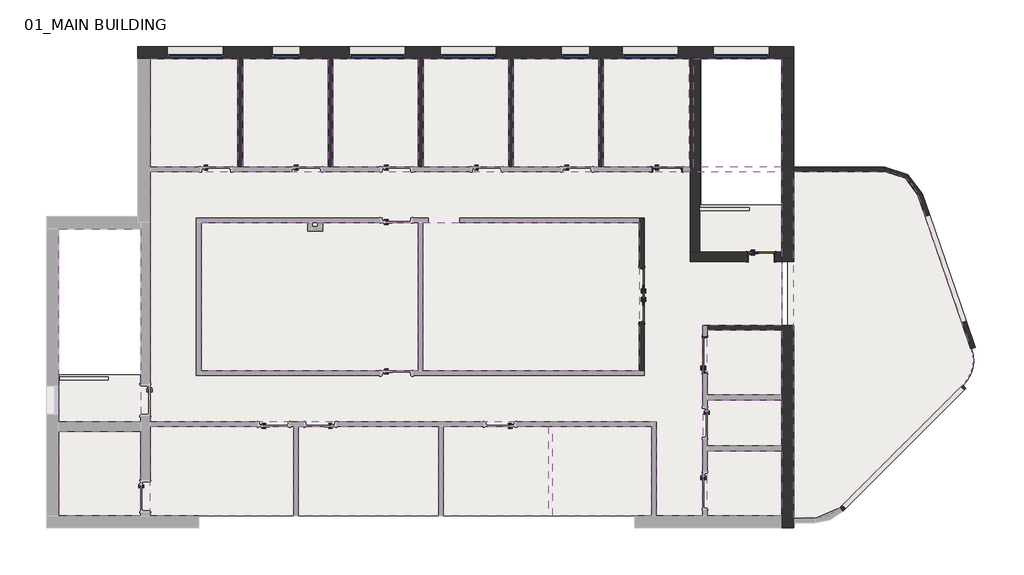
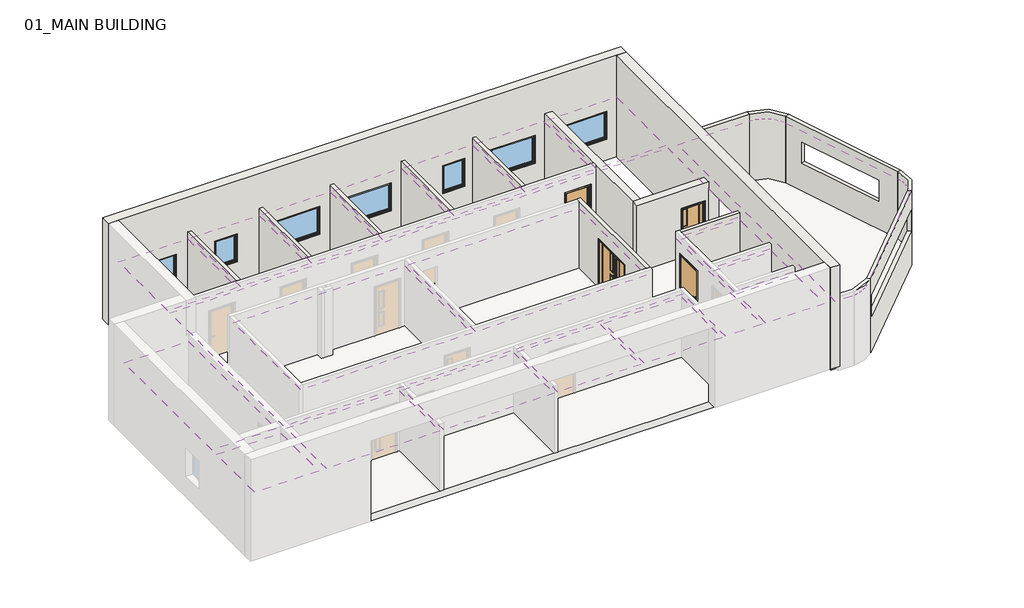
# One storey, part 2 of 2: 20 coverings, 17 walls, 7 windows, 4 doors, 2 slabs.
"""IFC4 building model written with IfcOpenShell, lengths in millimetres."""

from ifc_helpers import new_model, si_unit, point, frame, frame_2d, origin, place, context, project, spatial, polyline, circle_curve, trimmed, segment, composite_curve, outline, extrude, faceted_brep, transform, mapped, element, save
from components import doors_intdbl_3_1810x2110mm_64ebe9ef, doors_intdbl_3_1810x2110mm_1437e5d7, doors_intsgl_1_1010x2110mm_12a6edaf, doors_intsgl_1_1200x2110mm_e831e5cc, doors_intsgl_3_910x2110mm_ed6625c4, windows_concept_plain_sgl_1810x1210mm_7f7241d7, windows_concept_plain_sgl_910x1210mm_ef0b7ad2

model = new_model("IFC4")

# Units and contexts
model_context = context("Model", 3, world=origin())
ifc_project = project(units=[si_unit("LENGTHUNIT", "METRE", prefix="MILLI")], contexts=[model_context])

# Site, building, storey
site = spatial("IfcSite", under=ifc_project)
building = spatial("IfcBuilding", under=site)
storey = spatial("IfcBuildingStorey", under=building, Name="01_MAIN BUILDING", Elevation=4500.0)

# Coverings
placement = place(None, origin())
element("IfcCovering", 1, ObjectType="Ceiling_CompoundGeneric", at=placement, inside=storey, context=model_context, shape_type="SweptSolid", body=[
    extrude(outline(polyline([(425322.3206883, -385049.0026386), (425322.3206883, -381550.0026386), (428163.8921169, -381550.0026386), (428163.8921169, -385049.0026386), (425322.3206883, -385049.0026386)])), frame((0.0, 0.0, 7100.0), z_axis=(0.0, 0.0, 1.0), x_axis=(1.0, 0.0, 0.0)), (0.0, 0.0, 1.0), 52.0),
])
element("IfcCovering", 2, ObjectType="Ceiling_CompoundGeneric", at=placement, inside=storey, context=model_context, shape_type="SweptSolid", body=[
    extrude(outline(polyline([(428313.8921169, -381550.0026386), (431080.4635455, -381550.0026386), (431080.4635455, -385049.0026386), (428313.8921169, -385049.0026386), (428313.8921169, -381550.0026386)])), frame((0.0, 0.0, 7100.0), z_axis=(0.0, 0.0, 1.0), x_axis=(1.0, 0.0, 0.0)), (0.0, 0.0, 1.0), 52.0),
])
element("IfcCovering", 3, ObjectType="Ceiling_CompoundGeneric", at=placement, inside=storey, context=model_context, shape_type="SweptSolid", body=[
    extrude(outline(polyline([(431230.4635455, -381550.0026386), (433997.034974, -381550.0026386), (433997.034974, -385049.0026386), (431230.4635455, -385049.0026386), (431230.4635455, -381550.0026386)])), frame((0.0, 0.0, 7100.0), z_axis=(0.0, 0.0, 1.0), x_axis=(1.0, 0.0, 0.0)), (0.0, 0.0, 1.0), 52.0),
])
element("IfcCovering", 4, ObjectType="Ceiling_CompoundGeneric", at=placement, inside=storey, context=model_context, shape_type="SweptSolid", body=[
    extrude(outline(polyline([(434147.034974, -381550.0026386), (436913.6064026, -381550.0026386), (436913.6064026, -385049.0026386), (434147.034974, -385049.0026386), (434147.034974, -381550.0026386)])), frame((0.0, 0.0, 7100.0), z_axis=(0.0, 0.0, 1.0), x_axis=(1.0, 0.0, 0.0)), (0.0, 0.0, 1.0), 52.0),
])
element("IfcCovering", 5, ObjectType="Ceiling_CompoundGeneric", at=placement, inside=storey, context=model_context, shape_type="SweptSolid", body=[
    extrude(outline(polyline([(437063.6064026, -381550.0026386), (439830.1778312, -381550.0026386), (439830.1778312, -385049.0026386), (437063.6064026, -385049.0026386), (437063.6064026, -381550.0026386)])), frame((0.0, 0.0, 7100.0), z_axis=(0.0, 0.0, 1.0), x_axis=(1.0, 0.0, 0.0)), (0.0, 0.0, 1.0), 52.0),
])
element("IfcCovering", 6, ObjectType="Ceiling_CompoundGeneric", at=placement, inside=storey, context=model_context, shape_type="SweptSolid", body=[
    extrude(outline(polyline([(439980.1778312, -381550.0026386), (442746.7492598, -381550.0026386), (442746.7492598, -385049.0026386), (439980.1778312, -385049.0026386), (439980.1778312, -381550.0026386)])), frame((0.0, 0.0, 7100.0), z_axis=(0.0, 0.0, 1.0), x_axis=(1.0, 0.0, 0.0)), (0.0, 0.0, 1.0), 52.0),
])
element("IfcCovering", 7, ObjectType="Ceiling_CompoundGeneric", at=placement, inside=storey, context=model_context, shape_type="SweptSolid", body=[
    extrude(outline(polyline([(442896.7492598, -385049.0026386), (442896.7492598, -381550.0026386), (445738.3206883, -381550.0026386), (445738.3206883, -385049.0026386), (442896.7492598, -385049.0026386)])), frame((0.0, 0.0, 7100.0), z_axis=(0.0, 0.0, 1.0), x_axis=(1.0, 0.0, 0.0)), (0.0, 0.0, 1.0), 52.0),
])
element("IfcCovering", 8, ObjectType="Ceiling_CompoundGeneric", at=placement, inside=storey, context=model_context, shape_type="SweptSolid", body=[
    extrude(outline(polyline([(434142.3206883, -391649.0026386), (434142.3206883, -386849.0026386), (441142.3206883, -386849.0026386), (441142.3206883, -391649.0026386), (434142.3206883, -391649.0026386)])), frame((0.0, 0.0, 7100.0), z_axis=(0.0, 0.0, 1.0), x_axis=(1.0, 0.0, 0.0)), (0.0, 0.0, 1.0), 52.0),
])
element("IfcCovering", 9, ObjectType="Ceiling_CompoundGeneric", at=placement, inside=storey, context=model_context, shape_type="SweptSolid", body=[
    extrude(outline(polyline([(426972.3206883, -386849.0026386), (433992.3206883, -386849.0026386), (433992.3206883, -391649.0026386), (426972.3206883, -391649.0026386), (426972.3206883, -386849.0026386)])), frame((0.0, 0.0, 7100.0), z_axis=(0.0, 0.0, 1.0), x_axis=(1.0, 0.0, 0.0)), (0.0, 0.0, 1.0), 52.0),
])
element("IfcCovering", 10, ObjectType="Ceiling_CompoundGeneric", at=placement, inside=storey, context=model_context, shape_type="SweptSolid", body=[
    extrude(outline(polyline([(422376.3206883, -393299.0026386), (422376.3206883, -387049.0026386), (425012.3206883, -387049.0026386), (425012.3206883, -393299.0026386), (422376.3206883, -393299.0026386)])), frame((0.0, 0.0, 7100.0), z_axis=(0.0, 0.0, 1.0), x_axis=(1.0, 0.0, 0.0)), (0.0, 0.0, 1.0), 52.0),
])
element("IfcCovering", 11, ObjectType="Ceiling_CompoundGeneric", at=placement, inside=storey, context=model_context, shape_type="SweptSolid", body=[
    extrude(outline(polyline([(425012.3206883, -396328.0026386), (422376.3206883, -396328.0026386), (422376.3206883, -394395.0026386), (422376.3206883, -393609.0026386), (425012.3206883, -393609.0026386), (425012.3206883, -396328.0026386)])), frame((0.0, 0.0, 7100.0), z_axis=(0.0, 0.0, 1.0), x_axis=(1.0, 0.0, 0.0)), (0.0, 0.0, 1.0), 52.0),
])
element("IfcCovering", 12, ObjectType="Ceiling_CompoundGeneric", at=placement, inside=storey, context=model_context, shape_type="SweptSolid", body=[
    extrude(outline(polyline([(429969.5429107, -396328.0026386), (425322.3206883, -396328.0026386), (425322.3206883, -393449.0026386), (429969.5429107, -393449.0026386), (429969.5429107, -396328.0026386)])), frame((0.0, 0.0, 7100.0), z_axis=(0.0, 0.0, 1.0), x_axis=(1.0, 0.0, 0.0)), (0.0, 0.0, 1.0), 52.0),
])
element("IfcCovering", 13, ObjectType="Ceiling_CompoundGeneric", at=placement, inside=storey, context=model_context, shape_type="SweptSolid", body=[
    extrude(outline(polyline([(434652.8762438, -396328.0026386), (430119.5429107, -396328.0026386), (430119.5429107, -393449.0026386), (434652.8762438, -393449.0026386), (434652.8762438, -396328.0026386)])), frame((0.0, 0.0, 7100.0), z_axis=(0.0, 0.0, 1.0), x_axis=(1.0, 0.0, 0.0)), (0.0, 0.0, 1.0), 52.0),
])
element("IfcCovering", 14, ObjectType="Ceiling_CompoundGeneric", at=placement, inside=storey, context=model_context, shape_type="SweptSolid", body=[
    extrude(outline(polyline([(438198.3206883, -396328.0026386), (434802.8762438, -396328.0026386), (434802.8762438, -393449.0026386), (438198.3206883, -393449.0026386), (438198.3206883, -396328.0026386)])), frame((0.0, 0.0, 7100.0), z_axis=(0.0, 0.0, 1.0), x_axis=(1.0, 0.0, 0.0)), (0.0, 0.0, 1.0), 52.0),
])
element("IfcCovering", 15, ObjectType="Ceiling_CompoundGeneric", at=placement, inside=storey, context=model_context, shape_type="SweptSolid", body=[
    extrude(outline(polyline([(441538.3206883, -396328.0026386), (438348.3206883, -396328.0026386), (438348.3206883, -393449.0026386), (441538.3206883, -393449.0026386), (441538.3206883, -396328.0026386)])), frame((0.0, 0.0, 7100.0), z_axis=(0.0, 0.0, 1.0), x_axis=(1.0, 0.0, 0.0)), (0.0, 0.0, 1.0), 52.0),
])
element("IfcCovering", 16, ObjectType="Ceiling_CompoundGeneric", at=placement, inside=storey, context=model_context, shape_type="SweptSolid", body=[
    extrude(outline(polyline([(445738.3206883, -394228.0026386), (445738.3206883, -396328.0026386), (443338.3206883, -396328.0026386), (443338.3206883, -394228.0026386), (445738.3206883, -394228.0026386)])), frame((0.0, 0.0, 7100.0), z_axis=(0.0, 0.0, 1.0), x_axis=(1.0, 0.0, 0.0)), (0.0, 0.0, 1.0), 52.0),
])
element("IfcCovering", 17, ObjectType="Ceiling_CompoundGeneric", at=placement, inside=storey, context=model_context, shape_type="SweptSolid", body=[
    extrude(outline(polyline([(445738.3206883, -392578.0026386), (445738.3206883, -394078.0026386), (443338.3206883, -394078.0026386), (443338.3206883, -392578.0026386), (445738.3206883, -392578.0026386)])), frame((0.0, 0.0, 7100.0), z_axis=(0.0, 0.0, 1.0), x_axis=(1.0, 0.0, 0.0)), (0.0, 0.0, 1.0), 52.0),
])
element("IfcCovering", 18, ObjectType="Ceiling_CompoundGeneric", at=placement, inside=storey, context=model_context, shape_type="SweptSolid", body=[
    extrude(outline(polyline([(445738.3206883, -390328.0026386), (445738.3206883, -392428.0026386), (443338.3206883, -392428.0026386), (443338.3206883, -390328.0026386), (445738.3206883, -390328.0026386)])), frame((0.0, 0.0, 7100.0), z_axis=(0.0, 0.0, 1.0), x_axis=(1.0, 0.0, 0.0)), (0.0, 0.0, 1.0), 52.0),
])
element("IfcCovering", 19, ObjectType="Ceiling_CompoundGeneric", at=placement, inside=storey, context=model_context, shape_type="SweptSolid", body=[
    extrude(outline(polyline([(445738.3206883, -385199.0026386), (445738.3206883, -390178.0026386), (443188.3206883, -390178.0026386), (443188.3206883, -396328.0026386), (441688.3206883, -396328.0026386), (441688.3206883, -393299.0026386), (425322.3206883, -393299.0026386), (425322.3206883, -386848.0026386), (425322.3206883, -385199.0026386), (445738.3206883, -385199.0026386)]), holes=[polyline([(441292.3206883, -391799.0026386), (441292.3206883, -386699.0026386), (426822.3206883, -386699.0026386), (426822.3206883, -391799.0026386), (441292.3206883, -391799.0026386)])]), frame((0.0, 0.0, 7100.0), z_axis=(0.0, 0.0, 1.0), x_axis=(1.0, 0.0, 0.0)), (0.0, 0.0, 1.0), 52.0),
])
element("IfcCovering", 20, ObjectType="Ceiling_CompoundGeneric", at=placement, inside=storey, context=model_context, shape_type="SweptSolid", body=[
    extrude(outline(composite_curve([segment(polyline([(446140.3206883, -396408.0026386), (446140.3206883, -385199.0026386), (449083.3690069, -385199.0026386)]), True, "CONTINUOUS"), segment(trimmed(circle_curve(frame_2d((449083.3690069, -386324.0026386)), 1125.0), [point((449083.3690069, -385199.0026386))], [point((450147.0774044, -385957.7384648))], False, "CARTESIAN"), True, "CONTINUOUS"), segment(polyline([(450147.0774044, -385957.7384648), (451862.4112075, -390939.4295547)]), True, "CONTINUOUS"), segment(trimmed(circle_curve(frame_2d((450798.70281, -391305.6937285)), 1125.0), [point((451862.4112075, -390939.4295547))], [point((451594.1979388, -392101.1888573))], False, "CARTESIAN"), True, "CONTINUOUS"), segment(polyline([(451594.1979388, -392101.1888573), (447616.8890287, -396078.4977674)]), True, "CONTINUOUS"), segment(trimmed(circle_curve(frame_2d((446821.3938999, -395283.0026386)), 1125.0), [point((447616.8890287, -396078.4977674))], [point((446821.3938999, -396408.0026386))], False, "CARTESIAN"), True, "CONTINUOUS"), segment(polyline([(446821.3938999, -396408.0026386), (446140.3206883, -396408.0026386)]), True, "CONTINUOUS")], self_intersect=False)), frame((0.0, 0.0, 7100.0), z_axis=(0.0, 0.0, 1.0), x_axis=(1.0, 0.0, 0.0)), (0.0, 0.0, 1.0), 52.0),
])

# Doors
doors_intdbl_3_1810x2110mm_shape = doors_intdbl_3_1810x2110mm_64ebe9ef(model_context)
doors_intdbl_3_1810x2110mm_2_shape = doors_intdbl_3_1810x2110mm_1437e5d7(model_context)
element("IfcDoor", 21, ObjectType="Doors_IntDbl_3 : 1810x2110mm", at=placement, inside=storey, context=model_context, shape_type="MappedRepresentation", body=[
    mapped(doors_intdbl_3_1810x2110mm_shape, transform((441217.3206883, -389199.0026386, 4500.0), x_axis=(0.0, -1.0, 0.0), y_axis=(1.0, 0.0, 0.0), z_axis=(0.0, 0.0, 1.0))),
    mapped(doors_intdbl_3_1810x2110mm_2_shape, transform((441217.3206883, -389199.0026386, 4500.0), x_axis=(0.0, -1.0, 0.0), y_axis=(1.0, 0.0, 0.0), z_axis=(0.0, 0.0, 1.0))),
])
doors_intsgl_1_1010x2110mm_shape = doors_intsgl_1_1010x2110mm_12a6edaf(model_context)
element("IfcDoor", 22, ObjectType="Doors_IntSgl_1 : 1010x2110mm", at=placement, inside=storey, context=model_context, shape_type="MappedRepresentation", body=[
    mapped(doors_intsgl_1_1010x2110mm_shape, transform((442041.7492598, -385124.0026386, 4500.0), x_axis=(1.0, 0.0, 0.0), y_axis=(0.0, 1.0, 0.0), z_axis=(0.0, 0.0, 1.0))),
])
doors_intsgl_1_1200x2110mm_shape = doors_intsgl_1_1200x2110mm_e831e5cc(model_context)
element("IfcDoor", 23, ObjectType="Doors_IntSgl_1 : 1200x2110mm", at=placement, inside=storey, context=model_context, shape_type="MappedRepresentation", body=[
    mapped(doors_intsgl_1_1200x2110mm_shape, transform((443263.3206883, -391128.0026386, 4500.0), x_axis=(0.0, 1.0, 0.0), y_axis=(-1.0, 0.0, 0.0), z_axis=(0.0, 0.0, 1.0))),
])
doors_intsgl_3_910x2110mm_shape = doors_intsgl_3_910x2110mm_ed6625c4(model_context)
element("IfcDoor", 24, ObjectType="Doors_IntSgl_3 : 910x2110mm", at=placement, inside=storey, context=model_context, shape_type="MappedRepresentation", body=[
    mapped(doors_intsgl_3_910x2110mm_shape, transform((445083.3206883, -387955.0026386, 4500.0), x_axis=(1.0, 0.0, 0.0), y_axis=(0.0, 1.0, 0.0), z_axis=(0.0, 0.0, 1.0))),
])

# Slabs
element("IfcSlab", 25, ObjectType="Floor_WSUK_Suspended", at=placement, inside=storey, context=model_context, shape_type="SweptSolid", body=[
    extrude(outline(polyline([(425322.3206883, -387049.0026386), (425322.3206883, -381550.0026386), (443122.3206883, -381550.0026386), (443122.3206883, -386275.0026386), (445738.3206883, -386275.0026386), (445738.3206883, -396328.0026386), (422376.3206883, -396328.0026386), (422376.3206883, -391774.0026386), (425012.3206883, -391774.0026386), (425012.3206883, -387049.0026386), (425322.3206883, -387049.0026386)])), frame((0.0, 0.0, 4200.0), z_axis=(0.0, 0.0, 1.0), x_axis=(1.0, 0.0, 0.0)), (0.0, 0.0, 1.0), 300.0),
])
element("IfcSlab", 26, ObjectType="Floor_WSUK_Suspended", at=placement, inside=storey, context=model_context, shape_type="SweptSolid", body=[
    extrude(outline(composite_curve([segment(trimmed(circle_curve(frame_2d((449083.3690069, -386324.0026386)), 1150.0), [point((449083.3690069, -385174.0026386))], [point((450170.7153688, -385949.599261))], False, "CARTESIAN"), True, "CONTINUOUS"), segment(polyline([(450170.7153688, -385949.599261), (451886.0491719, -390931.2903509)]), True, "CONTINUOUS"), segment(trimmed(circle_curve(frame_2d((450798.70281, -391305.6937285)), 1150.0), [point((451886.0491719, -390931.2903509))], [point((451611.8756083, -392118.8665269))], False, "CARTESIAN"), True, "CONTINUOUS"), segment(polyline([(451611.8756083, -392118.8665269), (447634.5666982, -396096.175437)]), True, "CONTINUOUS"), segment(trimmed(circle_curve(frame_2d((446821.3938999, -395283.0026386)), 1150.0), [point((447634.5666982, -396096.175437))], [point((446821.3938999, -396433.0026386))], False, "CARTESIAN"), True, "CONTINUOUS"), segment(polyline([(446821.3938999, -396433.0026386), (445939.3206883, -396433.0026386), (445939.3206883, -385174.0026386), (449083.3690069, -385174.0026386)]), True, "CONTINUOUS")], self_intersect=False)), frame((0.0, 0.0, 4200.0), z_axis=(0.0, 0.0, 1.0), x_axis=(1.0, 0.0, 0.0)), (0.0, 0.0, 1.0), 300.0),
])

# Walls
element("IfcWall", 27, ObjectType="Wall_Exterior_WSUK", at=placement, inside=storey, context=model_context, shape_type="Brep", body=[
    faceted_brep([(424920.3206883, -381550.0026386, 8900.0), (424920.3206883, -381550.0026386, 4500.0), (425012.3206883, -381550.0026386, 4500.0), (425322.3206883, -381550.0026386, 4500.0), (425414.3206883, -381550.0026386, 4500.0), (428163.8921169, -381550.0026386, 4500.0), (428313.8921169, -381550.0026386, 4500.0), (431080.4635455, -381550.0026386, 4500.0), (431230.4635455, -381550.0026386, 4500.0), (433997.034974, -381550.0026386, 4500.0), (434147.034974, -381550.0026386, 4500.0), (436913.6064026, -381550.0026386, 4500.0), (437063.6064026, -381550.0026386, 4500.0), (439830.1778312, -381550.0026386, 4500.0), (439980.1778312, -381550.0026386, 4500.0), (442792.3206883, -381550.0026386, 4500.0), (443102.3206883, -381550.0026386, 4500.0), (445738.3206883, -381550.0026386, 4500.0), (446140.3206883, -381550.0026386, 4500.0), (446140.3206883, -381550.0026386, 8900.0), (445738.3206883, -381550.0026386, 8900.0), (425322.3206883, -381550.0026386, 8900.0), (439530.1302121, -381550.0026386, 6610.0), (439530.1302121, -381550.0026386, 5400.0), (438620.1302121, -381550.0026386, 5400.0), (438620.1302121, -381550.0026386, 6610.0), (436518.4278312, -381550.0026386, 6610.0), (436518.4278312, -381550.0026386, 5400.0), (434708.4278312, -381550.0026386, 5400.0), (434708.4278312, -381550.0026386, 6610.0), (433576.7254502, -381550.0026386, 6610.0), (433576.7254502, -381550.0026386, 5400.0), (431766.7254502, -381550.0026386, 5400.0), (431766.7254502, -381550.0026386, 6610.0), (430185.0230693, -381550.0026386, 6610.0), (430185.0230693, -381550.0026386, 5400.0), (429275.0230693, -381550.0026386, 5400.0), (429275.0230693, -381550.0026386, 6610.0), (427693.3206883, -381550.0026386, 6610.0), (427693.3206883, -381550.0026386, 5400.0), (425883.3206883, -381550.0026386, 5400.0), (425883.3206883, -381550.0026386, 6610.0), (442401.8325931, -381550.0026386, 6610.0), (442401.8325931, -381550.0026386, 5400.0), (440591.8325931, -381550.0026386, 5400.0), (440591.8325931, -381550.0026386, 6610.0), (445343.534974, -381550.0026386, 6610.0), (445343.534974, -381550.0026386, 5400.0), (443533.534974, -381550.0026386, 5400.0), (443533.534974, -381550.0026386, 6610.0), (424920.3206883, -381148.0026386, 4500.0), (424920.3206883, -381148.0026386, 8900.0), (446140.3206883, -381148.0026386, 8900.0), (446140.3206883, -381148.0026386, 4500.0), (425414.3206883, -381148.0026386, 4500.0), (425012.3206883, -381148.0026386, 4500.0), (439530.1302121, -381148.0026386, 6610.0), (438620.1302121, -381148.0026386, 6610.0), (438620.1302121, -381148.0026386, 5400.0), (439530.1302121, -381148.0026386, 5400.0), (436518.4278312, -381148.0026386, 6610.0), (434708.4278312, -381148.0026386, 6610.0), (434708.4278312, -381148.0026386, 5400.0), (436518.4278312, -381148.0026386, 5400.0), (433576.7254502, -381148.0026386, 6610.0), (431766.7254502, -381148.0026386, 6610.0), (431766.7254502, -381148.0026386, 5400.0), (433576.7254502, -381148.0026386, 5400.0), (430185.0230693, -381148.0026386, 6610.0), (429275.0230693, -381148.0026386, 6610.0), (429275.0230693, -381148.0026386, 5400.0), (430185.0230693, -381148.0026386, 5400.0), (427693.3206883, -381148.0026386, 6610.0), (425883.3206883, -381148.0026386, 6610.0), (425883.3206883, -381148.0026386, 5400.0), (427693.3206883, -381148.0026386, 5400.0), (442401.8325931, -381148.0026386, 6610.0), (440591.8325931, -381148.0026386, 6610.0), (440591.8325931, -381148.0026386, 5400.0), (442401.8325931, -381148.0026386, 5400.0), (445343.534974, -381148.0026386, 6610.0), (443533.534974, -381148.0026386, 6610.0), (443533.534974, -381148.0026386, 5400.0), (445343.534974, -381148.0026386, 5400.0)], [[[0, 1, 2, 3, 4, 5, 6, 7, 8, 9, 10, 11, 12, 13, 14, 15, 16, 17, 18, 19, 20, 21], [22, 23, 24, 25], [26, 27, 28, 29], [30, 31, 32, 33], [34, 35, 36, 37], [38, 39, 40, 41], [42, 43, 44, 45], [46, 47, 48, 49]], [[50, 51, 52, 53, 54, 55], [56, 57, 58, 59], [60, 61, 62, 63], [64, 65, 66, 67], [68, 69, 70, 71], [72, 73, 74, 75], [76, 77, 78, 79], [80, 81, 82, 83]], [[18, 17, 16, 15, 14, 13, 12, 11, 10, 9, 8, 7, 6, 5, 4, 3, 2, 1, 50, 55, 54, 53]], [[0, 21, 20, 19, 52, 51]], [[19, 18, 53, 52]], [[0, 51, 50, 1]], [[23, 22, 56, 59]], [[24, 23, 59, 58]], [[25, 24, 58, 57]], [[22, 25, 57, 56]], [[27, 26, 60, 63]], [[28, 27, 63, 62]], [[29, 28, 62, 61]], [[26, 29, 61, 60]], [[31, 30, 64, 67]], [[32, 31, 67, 66]], [[33, 32, 66, 65]], [[30, 33, 65, 64]], [[35, 34, 68, 71]], [[36, 35, 71, 70]], [[37, 36, 70, 69]], [[34, 37, 69, 68]], [[39, 38, 72, 75]], [[40, 39, 75, 74]], [[41, 40, 74, 73]], [[38, 41, 73, 72]], [[43, 42, 76, 79]], [[44, 43, 79, 78]], [[45, 44, 78, 77]], [[42, 45, 77, 76]], [[47, 46, 80, 83]], [[48, 47, 83, 82]], [[49, 48, 82, 81]], [[46, 49, 81, 80]]]),
])
element("IfcWall", 28, ObjectType="Wall_Exterior_WSUK", at=placement, inside=storey, context=model_context, shape_type="Brep", body=[
    faceted_brep([(445738.3206883, -396730.0026386, 4500.0), (445738.3206883, -396730.0026386, 8900.0), (445738.3206883, -396328.0026386, 8900.0), (445738.3206883, -381550.0026386, 8900.0), (445738.3206883, -381550.0026386, 4500.0), (445738.3206883, -387800.0026386, 4500.0), (445738.3206883, -388110.0026386, 4500.0), (445738.3206883, -388110.0026386, 7100.0), (445738.3206883, -390178.0026386, 7100.0), (445738.3206883, -390178.0026386, 4500.0), (445738.3206883, -390328.0026386, 4500.0), (445738.3206883, -392428.0026386, 4500.0), (445738.3206883, -392578.0026386, 4500.0), (445738.3206883, -394078.0026386, 4500.0), (445738.3206883, -394228.0026386, 4500.0), (445738.3206883, -396328.0026386, 4500.0), (446140.3206883, -396730.0026386, 8900.0), (446140.3206883, -396730.0026386, 4500.0), (446140.3206883, -390178.0026386, 4500.0), (446140.3206883, -390178.0026386, 7100.0), (446140.3206883, -388110.0026386, 7100.0), (446140.3206883, -388110.0026386, 4500.0), (446140.3206883, -381550.0026386, 4500.0), (446140.3206883, -381550.0026386, 8900.0)], [[[0, 1, 2, 3, 4, 5, 6, 7, 8, 9, 10, 11, 12, 13, 14, 15]], [[16, 17, 18, 19, 20, 21, 22, 23]], [[4, 22, 21, 6, 5]], [[17, 0, 15, 14, 13, 12, 11, 10, 9, 18]], [[3, 2, 1, 16, 23]], [[4, 3, 23, 22]], [[0, 17, 16, 1]], [[7, 20, 19, 8]], [[8, 19, 18, 9]], [[20, 7, 6, 21]]]),
])
element("IfcWall", 29, ObjectType="Wall_Interior_WSUK", at=placement, inside=storey, context=model_context, shape_type="SweptSolid", body=[
    extrude(outline(polyline([(439980.1778312, -381550.0026386), (439980.1778312, -385049.0026386), (439830.1778312, -385049.0026386), (439830.1778312, -381550.0026386), (439980.1778312, -381550.0026386)])), frame((0.0, 0.0, 4500.0), z_axis=(0.0, 0.0, 1.0), x_axis=(1.0, 0.0, 0.0)), (0.0, 0.0, 1.0), 2900.0),
])
element("IfcWall", 30, ObjectType="Wall_Interior_WSUK", at=placement, inside=storey, context=model_context, shape_type="SweptSolid", body=[
    extrude(outline(polyline([(437063.6064026, -381550.0026386), (437063.6064026, -385049.0026386), (436913.6064026, -385049.0026386), (436913.6064026, -381550.0026386), (437063.6064026, -381550.0026386)])), frame((0.0, 0.0, 4500.0), z_axis=(0.0, 0.0, 1.0), x_axis=(1.0, 0.0, 0.0)), (0.0, 0.0, 1.0), 2900.0),
])
element("IfcWall", 31, ObjectType="Wall_Interior_WSUK", at=placement, inside=storey, context=model_context, shape_type="SweptSolid", body=[
    extrude(outline(polyline([(434147.034974, -381550.0026386), (434147.034974, -385049.0026386), (433997.034974, -385049.0026386), (433997.034974, -381550.0026386), (434147.034974, -381550.0026386)])), frame((0.0, 0.0, 4500.0), z_axis=(0.0, 0.0, 1.0), x_axis=(1.0, 0.0, 0.0)), (0.0, 0.0, 1.0), 2900.0),
])
element("IfcWall", 32, ObjectType="Wall_Interior_WSUK", at=placement, inside=storey, context=model_context, shape_type="SweptSolid", body=[
    extrude(outline(polyline([(431230.4635455, -381550.0026386), (431230.4635455, -385049.0026386), (431080.4635455, -385049.0026386), (431080.4635455, -381550.0026386), (431230.4635455, -381550.0026386)])), frame((0.0, 0.0, 4500.0), z_axis=(0.0, 0.0, 1.0), x_axis=(1.0, 0.0, 0.0)), (0.0, 0.0, 1.0), 2900.0),
])
element("IfcWall", 33, ObjectType="Wall_Interior_WSUK", at=placement, inside=storey, context=model_context, shape_type="SweptSolid", body=[
    extrude(outline(polyline([(428313.8921169, -381550.0026386), (428313.8921169, -385049.0026386), (428163.8921169, -385049.0026386), (428163.8921169, -381550.0026386), (428313.8921169, -381550.0026386)])), frame((0.0, 0.0, 4500.0), z_axis=(0.0, 0.0, 1.0), x_axis=(1.0, 0.0, 0.0)), (0.0, 0.0, 1.0), 2900.0),
])
element("IfcWall", 34, ObjectType="Wall_Interior_WSUK", at=placement, inside=storey, context=model_context, shape_type="Brep", body=[
    faceted_brep([(443338.3206883, -390328.0026386, 4500.0), (445738.3206883, -390328.0026386, 4500.0), (445738.3206883, -390328.0026386, 7400.0), (443338.3206883, -390328.0026386, 7400.0), (443338.3206883, -390178.0026386, 4500.0), (443338.3206883, -390178.0026386, 7400.0), (445738.3206883, -390178.0026386, 7400.0), (445738.3206883, -390178.0026386, 7100.0), (445738.3206883, -390178.0026386, 4500.0)], [[[0, 1, 2, 3]], [[4, 5, 6, 7, 8]], [[1, 0, 4, 8]], [[3, 2, 6, 5]], [[0, 3, 5, 4]], [[2, 1, 8, 7, 6]]]),
])
element("IfcWall", 35, ObjectType="Wall_Interior_WSUK", at=placement, inside=storey, context=model_context, shape_type="Brep", body=[
    faceted_brep([(441142.3206883, -391649.0026386, 7400.0), (441142.3206883, -386849.0026386, 7400.0), (441142.3206883, -386699.0026386, 7400.0), (441142.3206883, -386699.0026386, 4500.0), (441142.3206883, -386849.0026386, 4500.0), (441142.3206883, -388294.0026386, 4500.0), (441142.3206883, -388294.0026386, 6610.0), (441142.3206883, -390104.0026386, 6610.0), (441142.3206883, -390104.0026386, 4500.0), (441142.3206883, -391649.0026386, 4500.0), (441292.3206883, -386699.0026386, 7400.0), (441292.3206883, -391649.0026386, 7400.0), (441292.3206883, -391649.0026386, 4500.0), (441292.3206883, -390104.0026386, 4500.0), (441292.3206883, -390104.0026386, 6610.0), (441292.3206883, -388294.0026386, 6610.0), (441292.3206883, -388294.0026386, 4500.0), (441292.3206883, -386699.0026386, 4500.0)], [[[0, 1, 2, 3, 4, 5, 6, 7, 8, 9]], [[10, 11, 12, 13, 14, 15, 16, 17]], [[3, 17, 16, 5, 4]], [[12, 9, 8, 13]], [[2, 1, 0, 11, 10]], [[3, 2, 10, 17]], [[0, 9, 12, 11]], [[7, 14, 13, 8]], [[14, 7, 6, 15]], [[15, 6, 5, 16]]]),
])
element("IfcWall", 36, ObjectType="Wall_Interior_WSUK", at=placement, inside=storey, context=model_context, shape_type="SweptSolid", body=[
    extrude(outline(polyline([(449083.3690069, -385199.0026386), (446140.3206883, -385199.0026386), (446140.3206883, -385049.0026386), (449083.3690069, -385049.0026386), (449083.3690069, -385199.0026386)])), frame((0.0, 0.0, 4200.0), z_axis=(0.0, 0.0, 1.0), x_axis=(1.0, 0.0, 0.0)), (0.0, 0.0, 1.0), 3200.0),
])
element("IfcWall", 37, ObjectType="Wall_Interior_WSUK", at=placement, inside=storey, context=model_context, shape_type="SweptSolid", body=[
    extrude(outline(polyline([(855.9516814, 0.0), (6124.6912054, 0.0), (6124.6912054, -3200.0), (855.9516814, -3200.0), (855.9516814, 0.0)]), holes=[polyline([(1590.3214434, -2410.0), (5210.3214434, -2410.0), (5210.3214434, -1500.0), (1590.3214434, -1500.0), (1590.3214434, -2410.0)])]), frame((449868.4067952, -385148.4202502, 4200.0), z_axis=(0.9455185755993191, 0.32556815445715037, 0.0), x_axis=(0.32556815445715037, -0.9455185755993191, 0.0)), (0.0, 0.0, 1.0), 150.0),
])
element("IfcWall", 38, ObjectType="Wall_Interior_WSUK", at=placement, inside=storey, context=model_context, shape_type="SweptSolid", body=[
    extrude(outline(polyline([(-6374.6074247, 0.0), (-749.8432223, 0.0), (-749.8432223, -3200.0), (-6374.6074247, -3200.0), (-6374.6074247, 0.0)]), holes=[polyline([(-829.8432223, -1500.0), (-6254.6074247, -1500.0), (-6254.6074247, -2410.0), (-829.8432223, -2410.0), (-829.8432223, -1500.0)])]), frame((452230.4831833, -391677.0356472, 4200.0), z_axis=(-0.7071067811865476, 0.7071067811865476, 0.0), x_axis=(0.7071067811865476, 0.7071067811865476, 0.0)), (0.0, 0.0, 1.0), 150.0),
])
element("IfcWall", 39, ObjectType="Wall_Interior_WSUK", at=placement, inside=storey, context=model_context, shape_type="SweptSolid", body=[
    extrude(outline(composite_curve([segment(polyline([(450288.9051907, -385908.9032417), (450147.0774044, -385957.7384648)]), True, "CONTINUOUS"), segment(trimmed(circle_curve(frame_2d((449083.3690069, -386324.0026386)), 1125.0), [point((450147.0774044, -385957.7384648))], [point((449083.3690069, -385199.0026386))], True, "CARTESIAN"), True, "CONTINUOUS"), segment(polyline([(449083.3690069, -385199.0026386), (449083.3690069, -385049.0026386)]), True, "CONTINUOUS"), segment(trimmed(circle_curve(frame_2d((449083.3690069, -386324.0026386)), 1275.0), [point((449083.3690069, -385049.0026386))], [point((450288.9051907, -385908.9032417))], False, "CARTESIAN"), True, "CONTINUOUS")], self_intersect=False)), frame((0.0, 0.0, 4200.0), z_axis=(0.0, 0.0, 1.0), x_axis=(1.0, 0.0, 0.0)), (0.0, 0.0, 1.0), 3200.0),
])
element("IfcWall", 40, ObjectType="Wall_Interior_WSUK", at=placement, inside=storey, context=model_context, shape_type="SweptSolid", body=[
    extrude(outline(composite_curve([segment(trimmed(circle_curve(frame_2d((450798.70281, -391305.6937285)), 1275.0), [point((452004.2389939, -390890.5943316))], [point((451700.263956, -392207.2548745))], False, "CARTESIAN"), True, "CONTINUOUS"), segment(polyline([(451700.263956, -392207.2548745), (451594.1979388, -392101.1888573)]), True, "CONTINUOUS"), segment(trimmed(circle_curve(frame_2d((450798.70281, -391305.6937285)), 1125.0), [point((451594.1979388, -392101.1888573))], [point((451862.4112075, -390939.4295547))], True, "CARTESIAN"), True, "CONTINUOUS"), segment(polyline([(451862.4112075, -390939.4295547), (452004.2389939, -390890.5943316)]), True, "CONTINUOUS")], self_intersect=False)), frame((0.0, 0.0, 4200.0), z_axis=(0.0, 0.0, 1.0), x_axis=(1.0, 0.0, 0.0)), (0.0, 0.0, 1.0), 3200.0),
])
element("IfcWall", 41, ObjectType="Wall_Exterior_WSUK 2hr", at=placement, inside=storey, context=model_context, shape_type="Brep", body=[
    faceted_brep([(442792.3206883, -381550.0026386, 4500.0), (442792.3206883, -385049.0026386, 4500.0), (442792.3206883, -385199.0026386, 4500.0), (442792.3206883, -387800.0026386, 4500.0), (442792.3206883, -387800.0026386, 7400.0), (442792.3206883, -385199.0026386, 7400.0), (442792.3206883, -385049.0026386, 7400.0), (442792.3206883, -381550.0026386, 7400.0), (443102.3206883, -381550.0026386, 4500.0), (443102.3206883, -381550.0026386, 7400.0), (443102.3206883, -387800.0026386, 7400.0), (443102.3206883, -387800.0026386, 4500.0), (443102.3206883, -386455.0026386, 4500.0), (443102.3206883, -386355.0026386, 4500.0)], [[[0, 1, 2, 3, 4, 5, 6, 7]], [[8, 9, 10, 11, 12, 13]], [[3, 2, 1, 0, 8, 13, 12, 11]], [[7, 6, 5, 4, 10, 9]], [[4, 3, 11, 10]], [[0, 7, 9, 8]]]),
])
element("IfcWall", 42, ObjectType="Wall_Exterior_WSUK 2hr", at=placement, inside=storey, context=model_context, shape_type="Brep", body=[
    faceted_brep([(442792.3206883, -387800.0026386, 7400.0), (443102.3206883, -387800.0026386, 7400.0), (445738.3206883, -387800.0026386, 7400.0), (445738.3206883, -387800.0026386, 4500.0), (445538.3206883, -387800.0026386, 4500.0), (445538.3206883, -387800.0026386, 6610.0), (444628.3206883, -387800.0026386, 6610.0), (444628.3206883, -387800.0026386, 4500.0), (443102.3206883, -387800.0026386, 4500.0), (442792.3206883, -387800.0026386, 4500.0), (445738.3206883, -388110.0026386, 7400.0), (442792.3206883, -388110.0026386, 7400.0), (442792.3206883, -388110.0026386, 4500.0), (444628.3206883, -388110.0026386, 4500.0), (444628.3206883, -388110.0026386, 6610.0), (445538.3206883, -388110.0026386, 6610.0), (445538.3206883, -388110.0026386, 4500.0), (445738.3206883, -388110.0026386, 4500.0), (445738.3206883, -388110.0026386, 7100.0)], [[[0, 1, 2, 3, 4, 5, 6, 7, 8, 9]], [[10, 11, 12, 13, 14, 15, 16, 17, 18]], [[3, 17, 16, 4]], [[12, 9, 8, 7, 13]], [[2, 1, 0, 11, 10]], [[9, 12, 11, 0]], [[17, 3, 2, 10, 18]], [[15, 5, 4, 16]], [[5, 15, 14, 6]], [[6, 14, 13, 7]]]),
])
element("IfcWall", 43, ObjectType="Wall_Interior_Generic", at=placement, inside=storey, context=model_context, shape_type="SweptSolid", body=[
    extrude(outline(polyline([(444688.3206883, -386455.0026386), (443102.3206883, -386455.0026386), (443102.3206883, -386355.0026386), (444688.3206883, -386355.0026386), (444688.3206883, -386455.0026386)])), frame((0.0, 0.0, 4500.0), z_axis=(0.0, 0.0, 1.0), x_axis=(1.0, 0.0, 0.0)), (0.0, 0.0, 1.0), 1200.0),
])

# Windows
windows_concept_plain_sgl_1810x1210mm_shape = windows_concept_plain_sgl_1810x1210mm_7f7241d7(model_context)
element("IfcWindow", 44, ObjectType="Windows_Concept_Plain_Sgl : 1810x1210mm", at=placement, inside=storey, context=model_context, shape_type="MappedRepresentation", body=[
    mapped(windows_concept_plain_sgl_1810x1210mm_shape, transform((426788.3206883, -381340.5460708, 4500.0), x_axis=(-1.0, 0.0, 0.0), y_axis=(0.0, -1.0, 0.0), z_axis=(0.0, 0.0, 1.0))),
])
element("IfcWindow", 45, ObjectType="Windows_Concept_Plain_Sgl : 1810x1210mm", at=placement, inside=storey, context=model_context, shape_type="MappedRepresentation", body=[
    mapped(windows_concept_plain_sgl_1810x1210mm_shape, transform((432671.7254502, -381340.5460708, 4500.0), x_axis=(-1.0, 0.0, 0.0), y_axis=(0.0, -1.0, 0.0), z_axis=(0.0, 0.0, 1.0))),
])
element("IfcWindow", 46, ObjectType="Windows_Concept_Plain_Sgl : 1810x1210mm", at=placement, inside=storey, context=model_context, shape_type="MappedRepresentation", body=[
    mapped(windows_concept_plain_sgl_1810x1210mm_shape, transform((435613.4278312, -381340.5460708, 4500.0), x_axis=(-1.0, 0.0, 0.0), y_axis=(0.0, -1.0, 0.0), z_axis=(0.0, 0.0, 1.0))),
])
element("IfcWindow", 47, ObjectType="Windows_Concept_Plain_Sgl : 1810x1210mm", at=placement, inside=storey, context=model_context, shape_type="MappedRepresentation", body=[
    mapped(windows_concept_plain_sgl_1810x1210mm_shape, transform((441496.8325931, -381340.5460708, 4500.0), x_axis=(-1.0, 0.0, 0.0), y_axis=(0.0, -1.0, 0.0), z_axis=(0.0, 0.0, 1.0))),
])
element("IfcWindow", 48, ObjectType="Windows_Concept_Plain_Sgl : 1810x1210mm", at=placement, inside=storey, context=model_context, shape_type="MappedRepresentation", body=[
    mapped(windows_concept_plain_sgl_1810x1210mm_shape, transform((444438.534974, -381340.5460708, 4500.0), x_axis=(-1.0, 0.0, 0.0), y_axis=(0.0, -1.0, 0.0), z_axis=(0.0, 0.0, 1.0))),
])
windows_concept_plain_sgl_910x1210mm_shape = windows_concept_plain_sgl_910x1210mm_ef0b7ad2(model_context)
element("IfcWindow", 49, ObjectType="Windows_Concept_Plain_Sgl : 910x1210mm", at=placement, inside=storey, context=model_context, shape_type="MappedRepresentation", body=[
    mapped(windows_concept_plain_sgl_910x1210mm_shape, transform((429730.0230693, -381340.5460708, 4500.0), x_axis=(-1.0, 0.0, 0.0), y_axis=(0.0, -1.0, 0.0), z_axis=(0.0, 0.0, 1.0))),
])
element("IfcWindow", 50, ObjectType="Windows_Concept_Plain_Sgl : 910x1210mm", at=placement, inside=storey, context=model_context, shape_type="MappedRepresentation", body=[
    mapped(windows_concept_plain_sgl_910x1210mm_shape, transform((439075.1302121, -381340.5460708, 4500.0), x_axis=(-1.0, 0.0, 0.0), y_axis=(0.0, -1.0, 0.0), z_axis=(0.0, 0.0, 1.0))),
])

save(model, "model.ifc")
